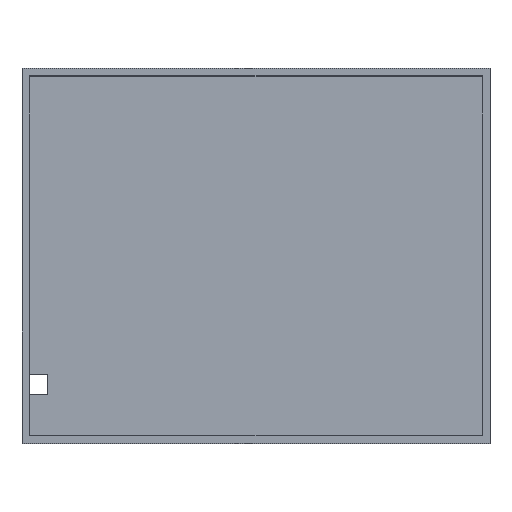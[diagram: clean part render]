
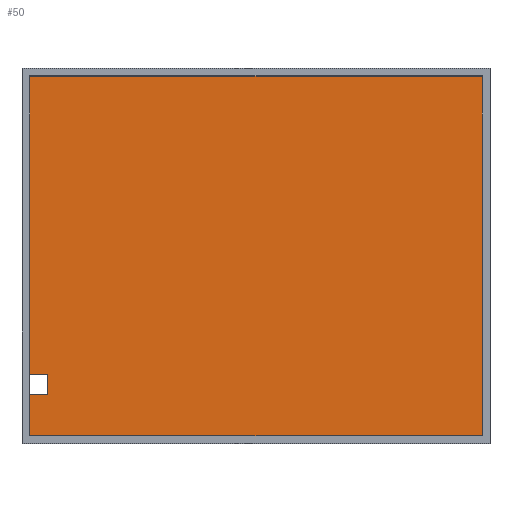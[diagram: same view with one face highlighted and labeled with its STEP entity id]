
A CAD part, top view. The second image highlights one B-rep face of the part: STEP entity #50.
In plain terms, the highlighted planar face has unit normal (0, 0, 1).
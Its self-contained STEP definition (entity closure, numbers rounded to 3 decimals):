
#2 = DIRECTION ( 'NONE',  ( 0., -1., 0. ) ) ;
#8 = VECTOR ( 'NONE', #152, 1000. ) ;
#10 = CARTESIAN_POINT ( 'NONE',  ( 3., 27.5, 3. ) ) ;
#19 = VERTEX_POINT ( 'NONE', #530 ) ;
#28 = LINE ( 'NONE', #507, #199 ) ;
#35 = CARTESIAN_POINT ( 'NONE',  ( 10., 27.5, 3. ) ) ;
#37 = CARTESIAN_POINT ( 'NONE',  ( 3., 19.5, 3. ) ) ;
#40 = VERTEX_POINT ( 'NONE', #10 ) ;
#41 = LINE ( 'NONE', #165, #169 ) ;
#50 = ADVANCED_FACE ( 'NONE', ( #335 ), #190, .F. ) ;
#59 = VERTEX_POINT ( 'NONE', #35 ) ;
#61 = VECTOR ( 'NONE', #85, 1000. ) ;
#65 = CARTESIAN_POINT ( 'NONE',  ( 0., 19.5, 3. ) ) ;
#69 = LINE ( 'NONE', #65, #431 ) ;
#73 = LINE ( 'NONE', #282, #8 ) ;
#85 = DIRECTION ( 'NONE',  ( 0., -1., 0. ) ) ;
#86 = VECTOR ( 'NONE', #248, 1000. ) ;
#88 = LINE ( 'NONE', #297, #86 ) ;
#124 = LINE ( 'NONE', #256, #274 ) ;
#126 = CARTESIAN_POINT ( 'NONE',  ( 0., 3., 3. ) ) ;
#142 = VERTEX_POINT ( 'NONE', #144 ) ;
#144 = CARTESIAN_POINT ( 'NONE',  ( 10., 19.5, 3. ) ) ;
#152 = DIRECTION ( 'NONE',  ( -1., 0., 0. ) ) ;
#153 = CARTESIAN_POINT ( 'NONE',  ( 0., 0., 3. ) ) ;
#156 = EDGE_CURVE ( 'NONE', #463, #19, #28, .T. ) ;
#165 = CARTESIAN_POINT ( 'NONE',  ( 0., 146., 3. ) ) ;
#169 = VECTOR ( 'NONE', #206, 1000. ) ;
#177 = VERTEX_POINT ( 'NONE', #341 ) ;
#182 = EDGE_LOOP ( 'NONE', ( #508, #505, #547, #399, #303, #265, #553, #480 ) ) ;
#190 = PLANE ( 'NONE',  #191 ) ;
#191 = AXIS2_PLACEMENT_3D ( 'NONE', #153, #373, #383 ) ;
#195 = EDGE_CURVE ( 'NONE', #19, #407, #41, .T. ) ;
#199 = VECTOR ( 'NONE', #500, 1000. ) ;
#206 = DIRECTION ( 'NONE',  ( -1., 0., 0. ) ) ;
#224 = EDGE_CURVE ( 'NONE', #177, #463, #481, .T. ) ;
#227 = EDGE_CURVE ( 'NONE', #407, #40, #124, .T. ) ;
#248 = DIRECTION ( 'NONE',  ( 0., 1., 0. ) ) ;
#249 = LINE ( 'NONE', #353, #61 ) ;
#251 = EDGE_CURVE ( 'NONE', #142, #59, #88, .T. ) ;
#253 = VECTOR ( 'NONE', #484, 1000. ) ;
#256 = CARTESIAN_POINT ( 'NONE',  ( 3., 0., 3. ) ) ;
#257 = EDGE_CURVE ( 'NONE', #261, #177, #249, .T. ) ;
#261 = VERTEX_POINT ( 'NONE', #37 ) ;
#265 = ORIENTED_EDGE ( 'NONE', *, *, #227, .T. ) ;
#274 = VECTOR ( 'NONE', #2, 1000. ) ;
#282 = CARTESIAN_POINT ( 'NONE',  ( 0., 27.5, 3. ) ) ;
#297 = CARTESIAN_POINT ( 'NONE',  ( 10., 0., 3. ) ) ;
#303 = ORIENTED_EDGE ( 'NONE', *, *, #195, .T. ) ;
#335 = FACE_OUTER_BOUND ( 'NONE', #182, .T. ) ;
#341 = CARTESIAN_POINT ( 'NONE',  ( 3., 3., 3. ) ) ;
#353 = CARTESIAN_POINT ( 'NONE',  ( 3., 0., 3. ) ) ;
#366 = CARTESIAN_POINT ( 'NONE',  ( 3., 146., 3. ) ) ;
#373 = DIRECTION ( 'NONE',  ( 0., 0., -1. ) ) ;
#383 = DIRECTION ( 'NONE',  ( -1., 0., 0. ) ) ;
#399 = ORIENTED_EDGE ( 'NONE', *, *, #156, .T. ) ;
#405 = CARTESIAN_POINT ( 'NONE',  ( 183., 3., 3. ) ) ;
#407 = VERTEX_POINT ( 'NONE', #366 ) ;
#421 = DIRECTION ( 'NONE',  ( 1., 0., 0. ) ) ;
#431 = VECTOR ( 'NONE', #421, 1000. ) ;
#463 = VERTEX_POINT ( 'NONE', #405 ) ;
#480 = ORIENTED_EDGE ( 'NONE', *, *, #251, .F. ) ;
#481 = LINE ( 'NONE', #126, #253 ) ;
#484 = DIRECTION ( 'NONE',  ( 1., 0., 0. ) ) ;
#500 = DIRECTION ( 'NONE',  ( 0., 1., 0. ) ) ;
#504 = EDGE_CURVE ( 'NONE', #261, #142, #69, .T. ) ;
#505 = ORIENTED_EDGE ( 'NONE', *, *, #257, .T. ) ;
#507 = CARTESIAN_POINT ( 'NONE',  ( 183., 0., 3. ) ) ;
#508 = ORIENTED_EDGE ( 'NONE', *, *, #504, .F. ) ;
#530 = CARTESIAN_POINT ( 'NONE',  ( 183., 146., 3. ) ) ;
#535 = EDGE_CURVE ( 'NONE', #59, #40, #73, .T. ) ;
#547 = ORIENTED_EDGE ( 'NONE', *, *, #224, .T. ) ;
#553 = ORIENTED_EDGE ( 'NONE', *, *, #535, .F. ) ;
